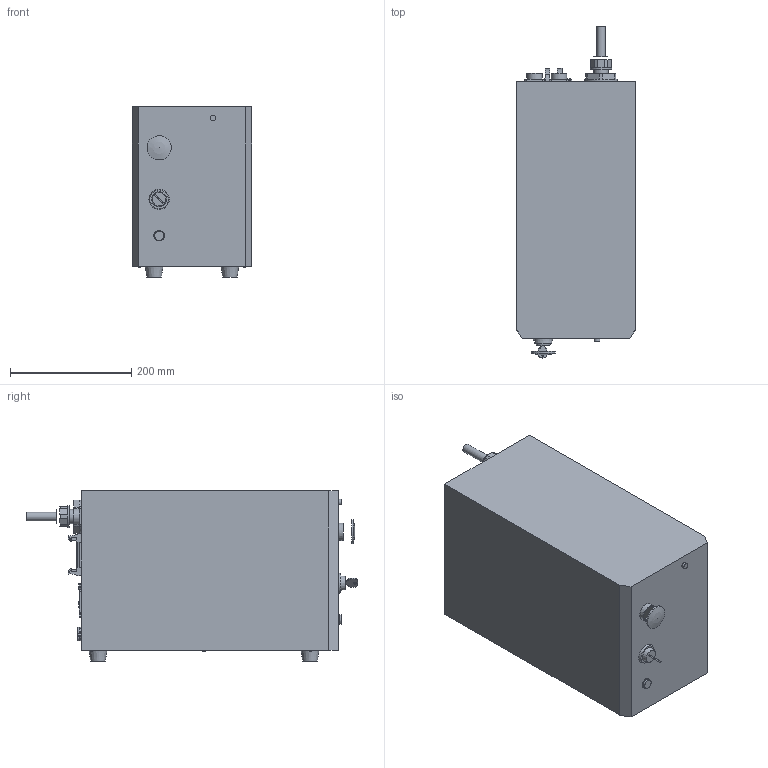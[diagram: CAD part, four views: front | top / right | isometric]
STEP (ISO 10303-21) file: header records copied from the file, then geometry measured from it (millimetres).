
FILE_DESCRIPTION(/* description */ (''),/* implementation_level */ '2;1');
FILE_NAME(/* name */ '',/* time_stamp */ '2025-08-20T11:25:27+09:00',/* author */ (''),/* organization */ (''),/* preprocessor_version */ 'ST-DEVELOPER v20.1',/* originating_system */ 'Autodesk Translation Framework v14.10.0.0',/* authorisation */ '');
FILE_SCHEMA (('AUTOMOTIVE_DESIGN { 1 0 10303 214 3 1 1 }'));
Length unit declared in the file: millimetre
Products named in the file (1): PL2000F-M20_コントローラー HP
Bounding box: 198 x 547.8 x 281 mm (x, y, z)
Volume: 22117997.8 mm3; surface area: 526178.7 mm2
Topology: 1 solids, 1 shells, 381 faces, 978 edges, 653 vertices
Faces by surface type: plane 283, cylinder 78, cone 12, sphere 7, torus 1
Full cylindrical faces by diameter (mm): 4.5 x1, 5 x2, 6.9 x6, 9.6 x1, 14.2 x1, 23.7 x1, 25.7 x2, 36 x1, 40 x1, 54.5 x1
Entity records: 11796 total; most frequent: CARTESIAN_POINT 2042, ORIENTED_EDGE 1954, DIRECTION 1925, EDGE_CURVE 977, LINE 767, VECTOR 767, VERTEX_POINT 653, AXIS2_PLACEMENT_3D 579
